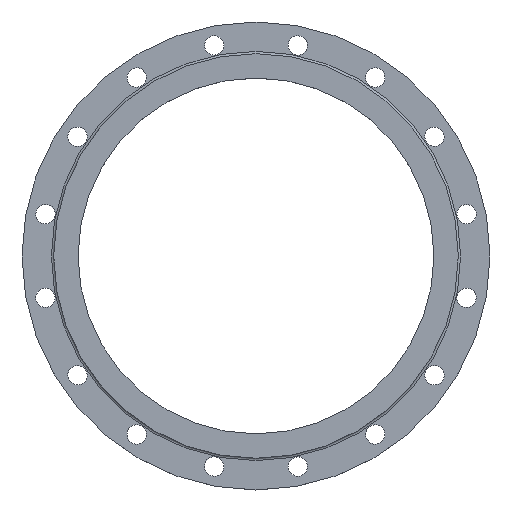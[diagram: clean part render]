
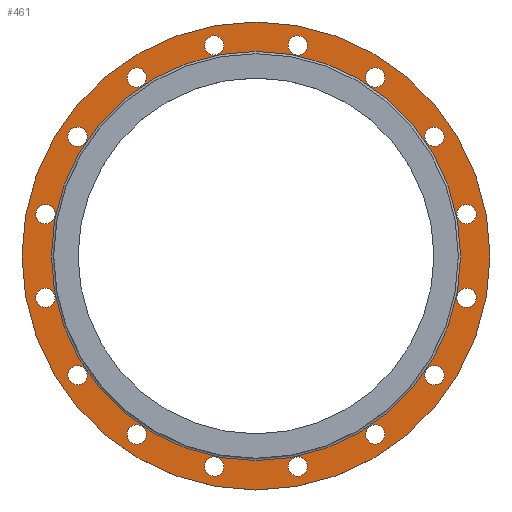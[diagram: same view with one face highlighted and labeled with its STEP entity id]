
A CAD part, top view. The second image highlights one B-rep face of the part: STEP entity #461.
In plain terms, the highlighted planar face has unit normal (0, 0, 1).
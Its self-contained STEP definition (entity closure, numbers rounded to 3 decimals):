
#69=FACE_BOUND('',#131,.T.);
#70=FACE_BOUND('',#132,.T.);
#71=FACE_BOUND('',#133,.T.);
#72=FACE_BOUND('',#134,.T.);
#73=FACE_BOUND('',#135,.T.);
#74=FACE_BOUND('',#136,.T.);
#75=FACE_BOUND('',#137,.T.);
#76=FACE_BOUND('',#138,.T.);
#77=FACE_BOUND('',#139,.T.);
#78=FACE_BOUND('',#140,.T.);
#79=FACE_BOUND('',#141,.T.);
#80=FACE_BOUND('',#142,.T.);
#81=FACE_BOUND('',#143,.T.);
#82=FACE_BOUND('',#144,.T.);
#83=FACE_BOUND('',#145,.T.);
#84=FACE_BOUND('',#146,.T.);
#85=FACE_BOUND('',#147,.T.);
#104=PLANE('',#508);
#108=FACE_OUTER_BOUND('',#130,.T.);
#130=EDGE_LOOP('',(#341,#342));
#131=EDGE_LOOP('',(#343));
#132=EDGE_LOOP('',(#344));
#133=EDGE_LOOP('',(#345));
#134=EDGE_LOOP('',(#346));
#135=EDGE_LOOP('',(#347));
#136=EDGE_LOOP('',(#348));
#137=EDGE_LOOP('',(#349));
#138=EDGE_LOOP('',(#350));
#139=EDGE_LOOP('',(#351));
#140=EDGE_LOOP('',(#352));
#141=EDGE_LOOP('',(#353));
#142=EDGE_LOOP('',(#354));
#143=EDGE_LOOP('',(#355));
#144=EDGE_LOOP('',(#356));
#145=EDGE_LOOP('',(#357));
#146=EDGE_LOOP('',(#358));
#147=EDGE_LOOP('',(#359,#360));
#186=CIRCLE('',#503,264.5);
#190=CIRCLE('',#507,264.5);
#191=CIRCLE('',#509,302.5);
#192=CIRCLE('',#510,302.5);
#193=CIRCLE('',#511,12.5);
#194=CIRCLE('',#512,12.5);
#195=CIRCLE('',#513,12.5);
#196=CIRCLE('',#514,12.5);
#197=CIRCLE('',#515,12.5);
#198=CIRCLE('',#516,12.5);
#199=CIRCLE('',#517,12.5);
#200=CIRCLE('',#518,12.5);
#201=CIRCLE('',#519,12.5);
#202=CIRCLE('',#520,12.5);
#203=CIRCLE('',#521,12.5);
#204=CIRCLE('',#522,12.5);
#205=CIRCLE('',#523,12.5);
#206=CIRCLE('',#524,12.5);
#207=CIRCLE('',#525,12.5);
#208=CIRCLE('',#526,12.5);
#230=VERTEX_POINT('',#722);
#231=VERTEX_POINT('',#723);
#234=VERTEX_POINT('',#732);
#235=VERTEX_POINT('',#733);
#236=VERTEX_POINT('',#736);
#237=VERTEX_POINT('',#738);
#238=VERTEX_POINT('',#740);
#239=VERTEX_POINT('',#742);
#240=VERTEX_POINT('',#744);
#241=VERTEX_POINT('',#746);
#242=VERTEX_POINT('',#748);
#243=VERTEX_POINT('',#750);
#244=VERTEX_POINT('',#752);
#245=VERTEX_POINT('',#754);
#246=VERTEX_POINT('',#756);
#247=VERTEX_POINT('',#758);
#248=VERTEX_POINT('',#760);
#249=VERTEX_POINT('',#762);
#250=VERTEX_POINT('',#764);
#251=VERTEX_POINT('',#766);
#273=EDGE_CURVE('',#230,#231,#186,.T.);
#277=EDGE_CURVE('',#231,#230,#190,.T.);
#278=EDGE_CURVE('',#234,#235,#191,.T.);
#279=EDGE_CURVE('',#235,#234,#192,.T.);
#280=EDGE_CURVE('',#236,#236,#193,.T.);
#281=EDGE_CURVE('',#237,#237,#194,.T.);
#282=EDGE_CURVE('',#238,#238,#195,.T.);
#283=EDGE_CURVE('',#239,#239,#196,.T.);
#284=EDGE_CURVE('',#240,#240,#197,.T.);
#285=EDGE_CURVE('',#241,#241,#198,.T.);
#286=EDGE_CURVE('',#242,#242,#199,.T.);
#287=EDGE_CURVE('',#243,#243,#200,.T.);
#288=EDGE_CURVE('',#244,#244,#201,.T.);
#289=EDGE_CURVE('',#245,#245,#202,.T.);
#290=EDGE_CURVE('',#246,#246,#203,.T.);
#291=EDGE_CURVE('',#247,#247,#204,.T.);
#292=EDGE_CURVE('',#248,#248,#205,.T.);
#293=EDGE_CURVE('',#249,#249,#206,.T.);
#294=EDGE_CURVE('',#250,#250,#207,.T.);
#295=EDGE_CURVE('',#251,#251,#208,.T.);
#341=ORIENTED_EDGE('',*,*,#278,.F.);
#342=ORIENTED_EDGE('',*,*,#279,.F.);
#343=ORIENTED_EDGE('',*,*,#280,.F.);
#344=ORIENTED_EDGE('',*,*,#281,.F.);
#345=ORIENTED_EDGE('',*,*,#282,.F.);
#346=ORIENTED_EDGE('',*,*,#283,.F.);
#347=ORIENTED_EDGE('',*,*,#284,.F.);
#348=ORIENTED_EDGE('',*,*,#285,.F.);
#349=ORIENTED_EDGE('',*,*,#286,.F.);
#350=ORIENTED_EDGE('',*,*,#287,.F.);
#351=ORIENTED_EDGE('',*,*,#288,.F.);
#352=ORIENTED_EDGE('',*,*,#289,.F.);
#353=ORIENTED_EDGE('',*,*,#290,.F.);
#354=ORIENTED_EDGE('',*,*,#291,.F.);
#355=ORIENTED_EDGE('',*,*,#292,.F.);
#356=ORIENTED_EDGE('',*,*,#293,.F.);
#357=ORIENTED_EDGE('',*,*,#294,.F.);
#358=ORIENTED_EDGE('',*,*,#295,.F.);
#359=ORIENTED_EDGE('',*,*,#273,.F.);
#360=ORIENTED_EDGE('',*,*,#277,.F.);
#461=ADVANCED_FACE('',(#108,#69,#70,#71,#72,#73,#74,#75,#76,#77,#78,#79,
#80,#81,#82,#83,#84,#85),#104,.T.);
#503=AXIS2_PLACEMENT_3D('',#724,#572,#573);
#507=AXIS2_PLACEMENT_3D('',#730,#580,#581);
#508=AXIS2_PLACEMENT_3D('',#731,#582,#583);
#509=AXIS2_PLACEMENT_3D('',#734,#584,#585);
#510=AXIS2_PLACEMENT_3D('',#735,#586,#587);
#511=AXIS2_PLACEMENT_3D('',#737,#588,#589);
#512=AXIS2_PLACEMENT_3D('',#739,#590,#591);
#513=AXIS2_PLACEMENT_3D('',#741,#592,#593);
#514=AXIS2_PLACEMENT_3D('',#743,#594,#595);
#515=AXIS2_PLACEMENT_3D('',#745,#596,#597);
#516=AXIS2_PLACEMENT_3D('',#747,#598,#599);
#517=AXIS2_PLACEMENT_3D('',#749,#600,#601);
#518=AXIS2_PLACEMENT_3D('',#751,#602,#603);
#519=AXIS2_PLACEMENT_3D('',#753,#604,#605);
#520=AXIS2_PLACEMENT_3D('',#755,#606,#607);
#521=AXIS2_PLACEMENT_3D('',#757,#608,#609);
#522=AXIS2_PLACEMENT_3D('',#759,#610,#611);
#523=AXIS2_PLACEMENT_3D('',#761,#612,#613);
#524=AXIS2_PLACEMENT_3D('',#763,#614,#615);
#525=AXIS2_PLACEMENT_3D('',#765,#616,#617);
#526=AXIS2_PLACEMENT_3D('',#767,#618,#619);
#572=DIRECTION('center_axis',(0.,0.,1.));
#573=DIRECTION('ref_axis',(-1.,0.,0.));
#580=DIRECTION('center_axis',(0.,0.,1.));
#581=DIRECTION('ref_axis',(-1.,0.,0.));
#582=DIRECTION('center_axis',(0.,0.,1.));
#583=DIRECTION('ref_axis',(1.,0.,0.));
#584=DIRECTION('center_axis',(0.,0.,-1.));
#585=DIRECTION('ref_axis',(1.,0.,0.));
#586=DIRECTION('center_axis',(0.,0.,-1.));
#587=DIRECTION('ref_axis',(1.,0.,0.));
#588=DIRECTION('center_axis',(0.,0.,1.));
#589=DIRECTION('ref_axis',(1.,0.,0.));
#590=DIRECTION('center_axis',(0.,0.,1.));
#591=DIRECTION('ref_axis',(0.924,0.383,0.));
#592=DIRECTION('center_axis',(0.,0.,1.));
#593=DIRECTION('ref_axis',(0.707,0.707,0.));
#594=DIRECTION('center_axis',(0.,0.,1.));
#595=DIRECTION('ref_axis',(0.383,0.924,0.));
#596=DIRECTION('center_axis',(0.,0.,1.));
#597=DIRECTION('ref_axis',(0.,1.,0.));
#598=DIRECTION('center_axis',(0.,0.,1.));
#599=DIRECTION('ref_axis',(-0.383,0.924,0.));
#600=DIRECTION('center_axis',(0.,0.,1.));
#601=DIRECTION('ref_axis',(-0.707,0.707,0.));
#602=DIRECTION('center_axis',(0.,0.,1.));
#603=DIRECTION('ref_axis',(-0.924,0.383,0.));
#604=DIRECTION('center_axis',(0.,0.,1.));
#605=DIRECTION('ref_axis',(-1.,0.,0.));
#606=DIRECTION('center_axis',(0.,0.,1.));
#607=DIRECTION('ref_axis',(-0.924,-0.383,0.));
#608=DIRECTION('center_axis',(0.,0.,1.));
#609=DIRECTION('ref_axis',(-0.707,-0.707,0.));
#610=DIRECTION('center_axis',(0.,0.,1.));
#611=DIRECTION('ref_axis',(-0.383,-0.924,0.));
#612=DIRECTION('center_axis',(0.,0.,1.));
#613=DIRECTION('ref_axis',(0.,-1.,0.));
#614=DIRECTION('center_axis',(0.,0.,1.));
#615=DIRECTION('ref_axis',(0.383,-0.924,0.));
#616=DIRECTION('center_axis',(0.,0.,1.));
#617=DIRECTION('ref_axis',(0.707,-0.707,0.));
#618=DIRECTION('center_axis',(0.,0.,1.));
#619=DIRECTION('ref_axis',(0.924,-0.383,0.));
#722=CARTESIAN_POINT('',(264.5,0.,21.));
#723=CARTESIAN_POINT('',(-264.5,0.,21.));
#724=CARTESIAN_POINT('Origin',(0.,0.,21.));
#730=CARTESIAN_POINT('Origin',(0.,0.,21.));
#731=CARTESIAN_POINT('Origin',(0.,0.,21.));
#732=CARTESIAN_POINT('',(302.5,0.,21.));
#733=CARTESIAN_POINT('',(-302.5,0.,21.));
#734=CARTESIAN_POINT('Origin',(0.,0.,21.));
#735=CARTESIAN_POINT('Origin',(0.,0.,21.));
#736=CARTESIAN_POINT('',(-66.638,272.168,21.));
#737=CARTESIAN_POINT('Origin',(-54.138,272.168,21.));
#738=CARTESIAN_POINT('',(-165.719,225.949,21.));
#739=CARTESIAN_POINT('Origin',(-154.171,230.733,21.));
#740=CARTESIAN_POINT('',(-239.572,145.332,21.));
#741=CARTESIAN_POINT('Origin',(-230.733,154.171,21.));
#742=CARTESIAN_POINT('',(-276.951,42.589,21.));
#743=CARTESIAN_POINT('Origin',(-272.168,54.138,21.));
#744=CARTESIAN_POINT('',(-272.168,-66.638,21.));
#745=CARTESIAN_POINT('Origin',(-272.168,-54.138,21.));
#746=CARTESIAN_POINT('',(-225.949,-165.719,21.));
#747=CARTESIAN_POINT('Origin',(-230.733,-154.171,21.));
#748=CARTESIAN_POINT('',(-145.332,-239.572,21.));
#749=CARTESIAN_POINT('Origin',(-154.171,-230.733,21.));
#750=CARTESIAN_POINT('',(-42.589,-276.951,21.));
#751=CARTESIAN_POINT('Origin',(-54.138,-272.168,21.));
#752=CARTESIAN_POINT('',(66.638,-272.168,21.));
#753=CARTESIAN_POINT('Origin',(54.138,-272.168,21.));
#754=CARTESIAN_POINT('',(165.719,-225.949,21.));
#755=CARTESIAN_POINT('Origin',(154.171,-230.733,21.));
#756=CARTESIAN_POINT('',(239.572,-145.332,21.));
#757=CARTESIAN_POINT('Origin',(230.733,-154.171,21.));
#758=CARTESIAN_POINT('',(276.951,-42.589,21.));
#759=CARTESIAN_POINT('Origin',(272.168,-54.138,21.));
#760=CARTESIAN_POINT('',(272.168,66.638,21.));
#761=CARTESIAN_POINT('Origin',(272.168,54.138,21.));
#762=CARTESIAN_POINT('',(225.949,165.719,21.));
#763=CARTESIAN_POINT('Origin',(230.733,154.171,21.));
#764=CARTESIAN_POINT('',(145.332,239.572,21.));
#765=CARTESIAN_POINT('Origin',(154.171,230.733,21.));
#766=CARTESIAN_POINT('',(42.589,276.951,21.));
#767=CARTESIAN_POINT('Origin',(54.138,272.168,21.));
